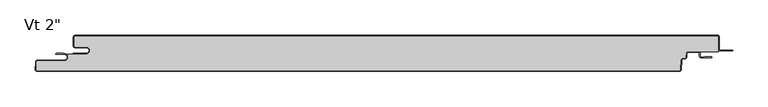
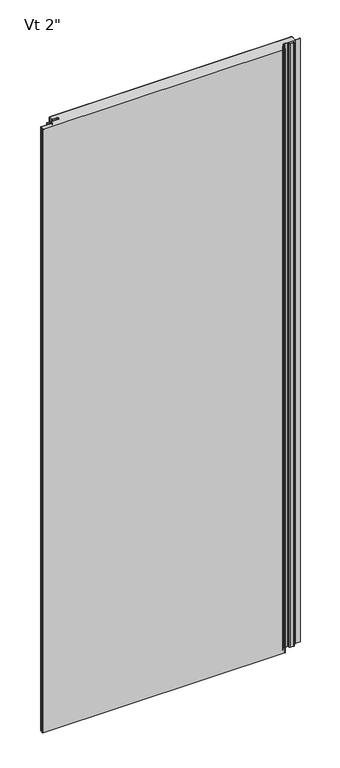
"""IFC4 building model written with IfcOpenShell, lengths in millimetres: plate geometry."""

from ifc_helpers import new_model, si_unit, point, frame, frame_2d, origin, origin_with_axes, place, context, project, spatial, polyline, circle_curve, ellipse_curve, trimmed, segment, composite_curve, outline, extrude, source, transform, mapped, element, save
from ifc_brep_helpers import plane_surface, cylinder_surface, revolved_surface, extruded_surface, advanced_brep


def plate_f37d1252(model_context):
    return source(origin(), model_context, "Body", "SolidModel", [
        extrude(outline(composite_curve([segment(trimmed(circle_curve(frame_2d((412.1683457, -25.4)), 2.5875), [point((412.1683457, -22.8125))], [point((409.5843918, -25.2645807))], True, "CARTESIAN"), True, "CONTINUOUS"), segment(polyline([(409.5843918, -25.2645807), (409.2823155, -31.028539)]), True, "CONTINUOUS"), segment(trimmed(circle_curve(frame_2d((407.9029585, -30.95625)), 1.38125), [point((409.2823155, -31.028539))], [point((407.9029585, -32.3375))], False, "CARTESIAN"), True, "CONTINUOUS"), segment(polyline([(407.9029585, -32.3375), (404.8591521, -32.3375)]), True, "CONTINUOUS"), segment(trimmed(circle_curve(frame_2d((404.8591521, -34.925)), 2.5875), [point((404.8591521, -32.3375))], [point((402.2751982, -34.7895807))], True, "CARTESIAN"), True, "CONTINUOUS"), segment(polyline([(402.2751982, -34.7895807), (401.5571352, -48.491039)]), True, "CONTINUOUS"), segment(trimmed(circle_curve(frame_2d((400.1777781, -48.41875)), 1.38125), [point((401.5571352, -48.491039))], [point((400.1777781, -49.8))], False, "CARTESIAN"), True, "CONTINUOUS"), segment(polyline([(400.1777781, -49.8), (-507.8656861, -49.8)]), True, "CONTINUOUS"), segment(trimmed(circle_curve(frame_2d((-507.8656861, -48.41875)), 1.38125), [point((-507.8656861, -49.8))], [point((-509.2450431, -48.346461))], False, "CARTESIAN"), True, "CONTINUOUS"), segment(polyline([(-509.2450431, -48.346461), (-508.6626617, -37.233961)]), True, "CONTINUOUS"), segment(trimmed(circle_curve(frame_2d((-507.2833046, -37.30625)), 1.38125), [point((-508.6626617, -37.233961))], [point((-507.2833046, -35.925))], False, "CARTESIAN"), True, "CONTINUOUS"), segment(polyline([(-507.2833046, -35.925), (-469.1, -35.925)]), True, "CONTINUOUS"), segment(trimmed(circle_curve(frame_2d((-469.1, -30.95625)), 4.96875), [point((-469.1, -35.925))], [point((-464.13125, -30.95625))], True, "CARTESIAN"), True, "CONTINUOUS"), segment(polyline([(-464.13125, -30.95625), (-464.13125, -26.4), (-438.14375, -26.4)]), True, "CONTINUOUS"), segment(trimmed(circle_curve(frame_2d((-438.14375, -21.43125)), 4.96875), [point((-438.14375, -26.4))], [point((-438.14375, -16.4625))], True, "CARTESIAN"), True, "CONTINUOUS"), segment(polyline([(-438.14375, -16.4625), (-454.01875, -16.4625)]), True, "CONTINUOUS"), segment(trimmed(circle_curve(frame_2d((-454.01875, -15.08125)), 1.38125), [point((-454.01875, -16.4625))], [point((-455.4, -15.08125))], False, "CARTESIAN"), True, "CONTINUOUS"), segment(polyline([(-455.4, -15.08125), (-455.4, -2.38125)]), True, "CONTINUOUS"), segment(trimmed(circle_curve(frame_2d((-454.01875, -2.38125)), 1.38125), [point((-455.4, -2.38125))], [point((-454.01875, -1.0))], False, "CARTESIAN"), True, "CONTINUOUS"), segment(polyline([(-454.01875, -1.0), (454.03125, -1.0)]), True, "CONTINUOUS"), segment(trimmed(circle_curve(frame_2d((454.03125, -2.38125)), 1.38125), [point((454.03125, -1.0))], [point((455.4125, -2.38125))], False, "CARTESIAN"), True, "CONTINUOUS"), segment(polyline([(455.4125, -2.38125), (455.4125, -22.8125), (412.1683457, -22.8125)]), True, "CONTINUOUS")], self_intersect=False)), origin_with_axes(), (0.0, 0.0, 1.0), 2400.0),
        extrude(outline(composite_curve([segment(polyline([(-456.4, -25.4), (-438.14375, -25.4)]), True, "CONTINUOUS"), segment(trimmed(circle_curve(frame_2d((-438.14375, -21.43125)), 3.96875), [point((-438.14375, -25.4))], [point((-438.14375, -17.4625))], True, "CARTESIAN"), True, "CONTINUOUS"), segment(polyline([(-438.14375, -17.4625), (-454.01875, -17.4625)]), True, "CONTINUOUS"), segment(trimmed(circle_curve(frame_2d((-454.01875, -15.08125)), 2.38125), [point((-454.01875, -17.4625))], [point((-456.4, -15.08125))], False, "CARTESIAN"), True, "CONTINUOUS"), segment(polyline([(-456.4, -15.08125), (-456.4, -2.38125)]), True, "CONTINUOUS"), segment(trimmed(circle_curve(frame_2d((-454.01875, -2.38125)), 2.38125), [point((-456.4, -2.38125))], [point((-454.01875, 0.0))], False, "CARTESIAN"), True, "CONTINUOUS"), segment(polyline([(-454.01875, 0.0), (454.03125, 0.0)]), True, "CONTINUOUS"), segment(trimmed(circle_curve(frame_2d((454.03125, -2.38125)), 2.38125), [point((454.03125, 0.0))], [point((456.4125, -2.38125))], False, "CARTESIAN"), True, "CONTINUOUS"), segment(polyline([(456.4125, -2.38125), (456.4125, -19.446875)]), True, "CONTINUOUS"), segment(trimmed(circle_curve(frame_2d((458.0, -19.446875)), 1.5875), [point((456.4125, -19.446875))], [point((458.0, -21.034375))], True, "CARTESIAN"), True, "CONTINUOUS"), segment(polyline([(458.0, -21.034375), (475.4625, -21.034375), (475.4625, -22.034375), (458.0, -22.034375)]), True, "CONTINUOUS"), segment(trimmed(circle_curve(frame_2d((458.0, -19.446875)), 2.5875), [point((458.0, -22.034375))], [point((455.4125, -19.446875))], False, "CARTESIAN"), True, "CONTINUOUS"), segment(polyline([(455.4125, -19.446875), (455.4125, -2.38125)]), True, "CONTINUOUS"), segment(trimmed(circle_curve(frame_2d((454.03125, -2.38125)), 1.38125), [point((455.4125, -2.38125))], [point((454.03125, -1.0))], True, "CARTESIAN"), True, "CONTINUOUS"), segment(polyline([(454.03125, -1.0), (-454.01875, -1.0)]), True, "CONTINUOUS"), segment(trimmed(circle_curve(frame_2d((-454.01875, -2.38125)), 1.38125), [point((-454.01875, -1.0))], [point((-455.4, -2.38125))], True, "CARTESIAN"), True, "CONTINUOUS"), segment(polyline([(-455.4, -2.38125), (-455.4, -15.08125)]), True, "CONTINUOUS"), segment(trimmed(circle_curve(frame_2d((-454.01875, -15.08125)), 1.38125), [point((-455.4, -15.08125))], [point((-454.01875, -16.4625))], True, "CARTESIAN"), True, "CONTINUOUS"), segment(polyline([(-454.01875, -16.4625), (-438.14375, -16.4625)]), True, "CONTINUOUS"), segment(trimmed(circle_curve(frame_2d((-438.14375, -21.43125)), 4.96875), [point((-438.14375, -16.4625))], [point((-438.14375, -26.4))], False, "CARTESIAN"), True, "CONTINUOUS"), segment(polyline([(-438.14375, -26.4), (-456.4, -26.4), (-456.4, -25.4)]), True, "CONTINUOUS")], self_intersect=False)), origin_with_axes(), (0.0, 0.0, 1.0), 2400.0),
        advanced_brep(
        [(-480.4252049, -25.4, 2400.0), (-480.4252049, -26.9875, 2400.0), (-469.1142674, -26.9875, 2400.0), (-469.1142674, -34.925, 2400.0), (-507.2975721, -34.925, 2400.0), (-509.6755586, -37.181625, 2400.0), (-510.2579401, -48.294125, 2400.0), (-507.8799535, -50.8, 2400.0), (400.1635107, -50.8, 2400.0), (402.5414973, -48.543375, 2400.0), (403.2595603, -34.8419167, 2400.0), (404.8448847, -33.3375, 2400.0), (407.8886911, -33.3375, 2400.0), (410.2666776, -31.080875, 2400.0), (410.5687539, -25.3169167, 2400.0), (412.1540783, -23.8125, 2400.0), (427.0294826, -23.8125, 2400.0), (428.6169826, -25.4, 2400.0), (428.6169826, -29.5671875, 2400.0), (430.9982326, -31.9484375, 2400.0), (445.4898532, -31.9484375, 2400.0), (445.4898532, -30.1546875, 2400.0), (435.7607326, -30.1546875, 2400.0), (435.7607326, -30.9484375, 2400.0), (430.9982326, -30.9484375, 2400.0), (429.6169826, -29.5671875, 2400.0), (429.6169826, -25.4, 2400.0), (427.0294826, -22.8125, 2400.0), (412.1540783, -22.8125, 2400.0), (409.5701244, -25.2645807, 2400.0), (409.2680481, -31.028539, 2400.0), (407.8886911, -32.3375, 2400.0), (404.8448847, -32.3375, 2400.0), (402.2609307, -34.7895807, 2400.0), (401.5428677, -48.491039, 2400.0), (400.1635107, -49.8, 2400.0), (-507.8799535, -49.8, 2400.0), (-509.2593106, -48.346461, 2400.0), (-508.6769291, -37.233961, 2400.0), (-507.2975721, -35.925, 2400.0), (-469.1142674, -35.925, 2400.0), (-469.1142674, -25.9875, 2400.0), (-470.7017674, -26.19375, 2400.0), (-470.7017674, -25.4, 2400.0), (-480.4252049, -25.4, 0.0), (-470.7017674, -25.4, 0.0), (-470.7017674, -26.19375, 0.0), (-469.1142674, -25.9875, 0.0), (-469.1142674, -35.925, 0.0), (-507.2975721, -35.925, 0.0), (-508.6769291, -37.233961, 0.0), (-509.2593106, -48.346461, 0.0), (-507.8799535, -49.8, 0.0), (400.1635107, -49.8, 0.0), (401.5428677, -48.491039, 0.0), (402.2609307, -34.7895807, 0.0), (404.8448847, -32.3375, 0.0), (407.8886911, -32.3375, 0.0), (409.2680481, -31.028539, 0.0), (409.5701244, -25.2645807, 0.0), (412.1540783, -22.8125, 0.0), (427.0294826, -22.8125, 0.0), (429.6169826, -25.4, 0.0), (429.6169826, -29.5671875, 0.0), (430.9982326, -30.9484375, 0.0), (435.7607326, -30.9484375, 0.0), (435.7607326, -30.1546875, 0.0), (445.4898532, -30.1546875, 0.0), (445.4898532, -31.9484375, 0.0), (430.9982326, -31.9484375, 0.0), (428.6169826, -29.5671875, 0.0), (428.6169826, -25.4, 0.0), (427.0294826, -23.8125, 0.0), (412.1540783, -23.8125, 0.0), (410.5687539, -25.3169167, 0.0), (410.2666776, -31.080875, 0.0), (407.8886911, -33.3375, 0.0), (404.8448847, -33.3375, 0.0), (403.2595603, -34.8419167, 0.0), (402.5414973, -48.543375, 0.0), (400.1635107, -50.8, 0.0), (-507.8799535, -50.8, 0.0), (-510.2579401, -48.294125, 0.0), (-509.6755586, -37.181625, 0.0), (-507.2975721, -34.925, 0.0), (-469.1142674, -34.925, 0.0), (-469.1142674, -26.9875, 0.0), (-480.4252049, -26.9875, 0.0)],
        [
            (0, 1, circle_curve(frame((-480.4252049, -26.19375, 2400.0), z_axis=(0.0, 0.0, 1.0), x_axis=(1.0, 0.0, 0.0)), 0.79375)),
            (1, 2),
            (2, 3, circle_curve(frame((-469.1142674, -30.95625, 2400.0), z_axis=(0.0, 0.0, -1.0), x_axis=(1.0, 0.0, 0.0)), 3.96875)),
            (3, 4),
            (4, 5, circle_curve(frame((-507.2975721, -37.30625, 2400.0), z_axis=(0.0, 0.0, 1.0), x_axis=(1.0, 0.0, 0.0)), 2.38125)),
            (5, 6),
            (6, 7, circle_curve(frame((-507.8799535, -48.41875, 2400.0), z_axis=(0.0, 0.0, 1.0), x_axis=(1.0, 0.0, 0.0)), 2.38125)),
            (7, 8),
            (8, 9, circle_curve(frame((400.1635107, -48.41875, 2400.0), z_axis=(0.0, 0.0, 1.0), x_axis=(1.0, 0.0, 0.0)), 2.38125)),
            (9, 10),
            (10, 11, circle_curve(frame((404.8448847, -34.925, 2400.0), z_axis=(0.0, 0.0, -1.0), x_axis=(1.0, 0.0, 0.0)), 1.5875)),
            (11, 12),
            (12, 13, circle_curve(frame((407.8886911, -30.95625, 2400.0), z_axis=(0.0, 0.0, 1.0), x_axis=(1.0, 0.0, 0.0)), 2.38125)),
            (13, 14),
            (14, 15, circle_curve(frame((412.1540783, -25.4, 2400.0), z_axis=(0.0, 0.0, -1.0), x_axis=(1.0, 0.0, 0.0)), 1.5875)),
            (15, 16),
            (16, 17, circle_curve(frame((427.0294826, -25.4, 2400.0), z_axis=(0.0, 0.0, -1.0), x_axis=(1.0, 0.0, 0.0)), 1.5875)),
            (17, 18),
            (18, 19, circle_curve(frame((430.9982326, -29.5671875, 2400.0), z_axis=(0.0, 0.0, 1.0), x_axis=(1.0, 0.0, 0.0)), 2.38125)),
            (19, 20),
            (20, 21, ellipse_curve(frame((445.4898532, -31.0515625, 2400.0), z_axis=(0.0, 0.0, 1.0), x_axis=(0.0, 1.0, 0.0)), 0.896875, 0.7852275)),
            (21, 22),
            (22, 23),
            (23, 24),
            (24, 25, circle_curve(frame((430.9982326, -29.5671875, 2400.0), z_axis=(0.0, 0.0, -1.0), x_axis=(1.0, 0.0, 0.0)), 1.38125)),
            (25, 26),
            (26, 27, circle_curve(frame((427.0294826, -25.4, 2400.0), z_axis=(0.0, 0.0, 1.0), x_axis=(1.0, 0.0, 0.0)), 2.5875)),
            (27, 28),
            (28, 29, circle_curve(frame((412.1540783, -25.4, 2400.0), z_axis=(0.0, 0.0, 1.0), x_axis=(1.0, 0.0, 0.0)), 2.5875)),
            (29, 30),
            (30, 31, circle_curve(frame((407.8886911, -30.95625, 2400.0), z_axis=(0.0, 0.0, -1.0), x_axis=(1.0, 0.0, 0.0)), 1.38125)),
            (31, 32),
            (32, 33, circle_curve(frame((404.8448847, -34.925, 2400.0), z_axis=(0.0, 0.0, 1.0), x_axis=(1.0, 0.0, 0.0)), 2.5875)),
            (33, 34),
            (34, 35, circle_curve(frame((400.1635107, -48.41875, 2400.0), z_axis=(0.0, 0.0, -1.0), x_axis=(1.0, 0.0, 0.0)), 1.38125)),
            (35, 36),
            (36, 37, circle_curve(frame((-507.8799535, -48.41875, 2400.0), z_axis=(0.0, 0.0, -1.0), x_axis=(1.0, 0.0, 0.0)), 1.38125)),
            (37, 38),
            (38, 39, circle_curve(frame((-507.2975721, -37.30625, 2400.0), z_axis=(0.0, 0.0, -1.0), x_axis=(1.0, 0.0, 0.0)), 1.38125)),
            (39, 40),
            (40, 41, circle_curve(frame((-469.1142674, -30.95625, 2400.0), z_axis=(0.0, 0.0, 1.0), x_axis=(1.0, 0.0, 0.0)), 4.96875)),
            (41, 42),
            (42, 43),
            (43, 0),
            (44, 45),
            (45, 46),
            (46, 47),
            (47, 48, circle_curve(frame((-469.1142674, -30.95625, 0.0), z_axis=(0.0, 0.0, -1.0), x_axis=(1.0, 0.0, 0.0)), 4.96875)),
            (48, 49),
            (49, 50, circle_curve(frame((-507.2975721, -37.30625, 0.0), z_axis=(0.0, 0.0, 1.0), x_axis=(1.0, 0.0, 0.0)), 1.38125)),
            (50, 51),
            (51, 52, circle_curve(frame((-507.8799535, -48.41875, 0.0), z_axis=(0.0, 0.0, 1.0), x_axis=(1.0, 0.0, 0.0)), 1.38125)),
            (52, 53),
            (53, 54, circle_curve(frame((400.1635107, -48.41875, 0.0), z_axis=(0.0, 0.0, 1.0), x_axis=(1.0, 0.0, 0.0)), 1.38125)),
            (54, 55),
            (55, 56, circle_curve(frame((404.8448847, -34.925, 0.0), z_axis=(0.0, 0.0, -1.0), x_axis=(1.0, 0.0, 0.0)), 2.5875)),
            (56, 57),
            (57, 58, circle_curve(frame((407.8886911, -30.95625, 0.0), z_axis=(0.0, 0.0, 1.0), x_axis=(1.0, 0.0, 0.0)), 1.38125)),
            (58, 59),
            (59, 60, circle_curve(frame((412.1540783, -25.4, 0.0), z_axis=(0.0, 0.0, -1.0), x_axis=(1.0, 0.0, 0.0)), 2.5875)),
            (60, 61),
            (61, 62, circle_curve(frame((427.0294826, -25.4, 0.0), z_axis=(0.0, 0.0, -1.0), x_axis=(1.0, 0.0, 0.0)), 2.5875)),
            (62, 63),
            (63, 64, circle_curve(frame((430.9982326, -29.5671875, 0.0), z_axis=(0.0, 0.0, 1.0), x_axis=(1.0, 0.0, 0.0)), 1.38125)),
            (64, 65),
            (65, 66),
            (66, 67),
            (67, 68, ellipse_curve(frame((445.4898532, -31.0515625, 0.0), z_axis=(0.0, 0.0, -1.0), x_axis=(0.0, 1.0, 0.0)), 0.896875, 0.7852275)),
            (68, 69),
            (69, 70, circle_curve(frame((430.9982326, -29.5671875, 0.0), z_axis=(0.0, 0.0, -1.0), x_axis=(1.0, 0.0, 0.0)), 2.38125)),
            (70, 71),
            (71, 72, circle_curve(frame((427.0294826, -25.4, 0.0), z_axis=(0.0, 0.0, 1.0), x_axis=(1.0, 0.0, 0.0)), 1.5875)),
            (72, 73),
            (73, 74, circle_curve(frame((412.1540783, -25.4, 0.0), z_axis=(0.0, 0.0, 1.0), x_axis=(1.0, 0.0, 0.0)), 1.5875)),
            (74, 75),
            (75, 76, circle_curve(frame((407.8886911, -30.95625, 0.0), z_axis=(0.0, 0.0, -1.0), x_axis=(1.0, 0.0, 0.0)), 2.38125)),
            (76, 77),
            (77, 78, circle_curve(frame((404.8448847, -34.925, 0.0), z_axis=(0.0, 0.0, 1.0), x_axis=(1.0, 0.0, 0.0)), 1.5875)),
            (78, 79),
            (79, 80, circle_curve(frame((400.1635107, -48.41875, 0.0), z_axis=(0.0, 0.0, -1.0), x_axis=(1.0, 0.0, 0.0)), 2.38125)),
            (80, 81),
            (81, 82, circle_curve(frame((-507.8799535, -48.41875, 0.0), z_axis=(0.0, 0.0, -1.0), x_axis=(1.0, 0.0, 0.0)), 2.38125)),
            (82, 83),
            (83, 84, circle_curve(frame((-507.2975721, -37.30625, 0.0), z_axis=(0.0, 0.0, -1.0), x_axis=(1.0, 0.0, 0.0)), 2.38125)),
            (84, 85),
            (85, 86, circle_curve(frame((-469.1142674, -30.95625, 0.0), z_axis=(0.0, 0.0, 1.0), x_axis=(1.0, 0.0, 0.0)), 3.96875)),
            (86, 87),
            (87, 44, circle_curve(frame((-480.4252049, -26.19375, 0.0), z_axis=(0.0, 0.0, -1.0), x_axis=(1.0, 0.0, 0.0)), 0.79375)),
            (20, 68),
            (67, 21),
            (66, 22),
            (65, 23),
            (41, 47),
            (46, 42),
            (45, 43),
            (40, 48),
            (39, 49),
            (38, 50),
            (37, 51),
            (33, 55),
            (54, 34),
            (32, 56),
            (31, 57),
            (30, 58),
            (29, 59),
            (28, 60),
            (64, 24),
            (63, 25),
            (62, 26),
            (61, 27),
            (18, 70),
            (69, 19),
            (17, 71),
            (16, 72),
            (15, 73),
            (14, 74),
            (13, 75),
            (12, 76),
            (11, 77),
            (10, 78),
            (9, 79),
            (5, 83),
            (82, 6),
            (4, 84),
            (3, 85),
            (2, 86),
            (1, 87),
            (0, 44),
            (36, 52),
            (35, 53),
            (8, 80),
            (7, 81),
        ],
        [
            plane_surface(frame((0.00625, -50.8, 2400.0), z_axis=(0.0, 0.0, 1.0), x_axis=(0.0, -1.0, 0.0))),
            plane_surface(frame((0.00625, -50.8, 0.0), z_axis=(0.0, 0.0, -1.0), x_axis=(0.0, -1.0, 0.0))),
            extruded_surface(trimmed(ellipse_curve(frame((445.4898532, -31.0515625, 2400.0), z_axis=(0.0, 0.0, -1.0), x_axis=(0.0, 1.0, 0.0)), 0.896875, 0.7852275), [point((445.4898532, -30.1546875, 2400.0))], [point((445.4898532, -31.9484375, 2400.0))], True, "CARTESIAN"), (0.0, 0.0, -2400.0), 2400.0),
            plane_surface(frame((435.7607326, -30.1546875, 2400.0), z_axis=(0.0, 1.0, 0.0), x_axis=(0.0, 0.0, -1.0))),
            plane_surface(frame((435.7607326, -30.9484375, 2400.0), z_axis=(-1.0, 0.0, 0.0), x_axis=(0.0, 0.0, -1.0))),
            plane_surface(frame((-470.7017674, -26.19375, 2400.0), z_axis=(-0.12883844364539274, 0.9916655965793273, 0.0), x_axis=(0.0, 0.0, -1.0))),
            plane_surface(frame((-470.7017674, -25.4, 2400.0), z_axis=(1.0, 0.0, 0.0), x_axis=(0.0, 0.0, -1.0))),
            cylinder_surface(frame((-469.1142674, -30.95625, 2400.0), z_axis=(0.0, 0.0, 1.0), x_axis=(1.0, 0.0, 0.0)), 4.96875),
            plane_surface(frame((-469.1142674, -35.925, 2400.0), z_axis=(0.0, -1.0, 0.0), x_axis=(0.0, 0.0, -1.0))),
            revolved_surface(polyline([(-505.9163221, -37.30625, 0.0), (-505.9163221, -37.30625, 2400.0)]), (-507.2975721, -37.30625, 2400.0), (0.0, 0.0, -1.0)),
            plane_surface(frame((-508.6769291, -37.233961, 2400.0), z_axis=(0.9986295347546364, -0.05233595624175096, 0.0), x_axis=(0.0, 0.0, -1.0))),
            plane_surface(frame((401.5428677, -48.491039, 2400.0), z_axis=(-0.9986295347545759, 0.05233595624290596, 0.0), x_axis=(0.0, 0.0, -1.0))),
            cylinder_surface(frame((404.8448847, -34.925, 2400.0), z_axis=(0.0, 0.0, 1.0), x_axis=(1.0, 0.0, 0.0)), 2.5875),
            plane_surface(frame((404.8448847, -32.3375, 2400.0), z_axis=(0.0, 1.0, 0.0), x_axis=(0.0, 0.0, -1.0))),
            revolved_surface(polyline([(409.26994110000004, -30.95625, 0.0), (409.26994110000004, -30.95625, 2400.0)]), (407.8886911, -30.95625, 2400.0), (0.0, 0.0, -1.0)),
            plane_surface(frame((409.2680481, -31.028539, 2400.0), z_axis=(-0.998629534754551, 0.05233595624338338, 0.0), x_axis=(0.0, 0.0, -1.0))),
            cylinder_surface(frame((412.1540783, -25.4, 2400.0), z_axis=(0.0, 0.0, 1.0), x_axis=(1.0, 0.0, 0.0)), 2.5875),
            plane_surface(frame((430.9982326, -30.9484375, 2400.0), z_axis=(0.0, 1.0, 0.0), x_axis=(0.0, 0.0, -1.0))),
            revolved_surface(polyline([(432.3794826, -29.5671875, 0.0), (432.3794826, -29.5671875, 2400.0)]), (430.9982326, -29.5671875, 2400.0), (0.0, 0.0, -1.0)),
            plane_surface(frame((429.6169826, -25.4, 2400.0), z_axis=(1.0, 0.0, 0.0), x_axis=(0.0, 0.0, -1.0))),
            cylinder_surface(frame((427.0294826, -25.4, 2400.0), z_axis=(0.0, 0.0, 1.0), x_axis=(1.0, 0.0, 0.0)), 2.5875),
            plane_surface(frame((412.1540783, -22.8125, 2400.0), z_axis=(0.0, 1.0, 0.0), x_axis=(0.0, 0.0, -1.0))),
            cylinder_surface(frame((430.9982326, -29.5671875, 2400.0), z_axis=(0.0, 0.0, 1.0), x_axis=(1.0, 0.0, 0.0)), 2.38125),
            plane_surface(frame((428.6169826, -29.5671875, 2400.0), z_axis=(-1.0, 0.0, 0.0), x_axis=(0.0, 0.0, -1.0))),
            revolved_surface(polyline([(428.6169826, -25.4, 0.0), (428.6169826, -25.4, 2400.0)]), (427.0294826, -25.4, 2400.0), (0.0, 0.0, -1.0)),
            plane_surface(frame((427.0294826, -23.8125, 2400.0), z_axis=(0.0, -1.0, 0.0), x_axis=(0.0, 0.0, -1.0))),
            revolved_surface(polyline([(413.74157829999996, -25.4, 0.0), (413.74157829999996, -25.4, 2400.0)]), (412.1540783, -25.4, 2400.0), (0.0, 0.0, -1.0)),
            plane_surface(frame((410.5687539, -25.3169167, 2400.0), z_axis=(0.9986295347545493, -0.05233595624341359, 0.0), x_axis=(0.0, 0.0, -1.0))),
            cylinder_surface(frame((407.8886911, -30.95625, 2400.0), z_axis=(0.0, 0.0, 1.0), x_axis=(1.0, 0.0, 0.0)), 2.38125),
            plane_surface(frame((407.8886911, -33.3375, 2400.0), z_axis=(0.0, -1.0, 0.0), x_axis=(0.0, 0.0, -1.0))),
            revolved_surface(polyline([(406.4323847, -34.925, 0.0), (406.4323847, -34.925, 2400.0)]), (404.8448847, -34.925, 2400.0), (0.0, 0.0, -1.0)),
            plane_surface(frame((403.2595603, -34.8419167, 2400.0), z_axis=(0.9986295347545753, -0.052335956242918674, 0.0), x_axis=(0.0, 0.0, -1.0))),
            plane_surface(frame((-510.2579401, -48.294125, 2400.0), z_axis=(-0.9986295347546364, 0.05233595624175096, 0.0), x_axis=(0.0, 0.0, -1.0))),
            cylinder_surface(frame((-507.2975721, -37.30625, 2400.0), z_axis=(0.0, 0.0, 1.0), x_axis=(1.0, 0.0, 0.0)), 2.38125),
            plane_surface(frame((-507.2975721, -34.925, 2400.0), z_axis=(0.0, 1.0, 0.0), x_axis=(0.0, 0.0, -1.0))),
            revolved_surface(polyline([(-465.1455174, -30.95625, 0.0), (-465.1455174, -30.95625, 2400.0)]), (-469.1142674, -30.95625, 2400.0), (0.0, 0.0, -1.0)),
            plane_surface(frame((-469.1142674, -26.9875, 2400.0), z_axis=(0.0, -1.0, 0.0), x_axis=(0.0, 0.0, -1.0))),
            cylinder_surface(frame((-480.4252049, -26.19375, 2400.0), z_axis=(0.0, 0.0, 1.0), x_axis=(1.0, 0.0, 0.0)), 0.79375),
            plane_surface(frame((-480.4252049, -25.4, 2400.0), z_axis=(0.0, 1.0, 0.0), x_axis=(0.0, 0.0, -1.0))),
            revolved_surface(polyline([(-506.4987035, -48.41875, 0.0), (-506.4987035, -48.41875, 2400.0)]), (-507.8799535, -48.41875, 2400.0), (0.0, 0.0, -1.0)),
            plane_surface(frame((-507.8799535, -49.8, 2400.0), z_axis=(0.0, 1.0, 0.0), x_axis=(0.0, 0.0, -1.0))),
            revolved_surface(polyline([(401.54476070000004, -48.41875, 0.0), (401.54476070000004, -48.41875, 2400.0)]), (400.1635107, -48.41875, 2400.0), (0.0, 0.0, -1.0)),
            plane_surface(frame((445.4898532, -31.9484375, 2400.0), z_axis=(0.0, -1.0, 0.0), x_axis=(0.0, 0.0, -1.0))),
            cylinder_surface(frame((400.1635107, -48.41875, 2400.0), z_axis=(0.0, 0.0, 1.0), x_axis=(1.0, 0.0, 0.0)), 2.38125),
            plane_surface(frame((400.1635107, -50.8, 2400.0), z_axis=(0.0, -1.0, 0.0), x_axis=(0.0, 0.0, -1.0))),
            cylinder_surface(frame((-507.8799535, -48.41875, 2400.0), z_axis=(0.0, 0.0, 1.0), x_axis=(1.0, 0.0, 0.0)), 2.38125),
        ],
        [
            (0, [[1, 2, 3, 4, 5, 6, 7, 8, 9, 10, 11, 12, 13, 14, 15, 16, 17, 18, 19, 20, 21, 22, 23, 24, 25, 26, 27, 28, 29, 30, 31, 32, 33, 34, 35, 36, 37, 38, 39, 40, 41, 42, 43, 44]]),
            (1, [[45, 46, 47, 48, 49, 50, 51, 52, 53, 54, 55, 56, 57, 58, 59, 60, 61, 62, 63, 64, 65, 66, 67, 68, 69, 70, 71, 72, 73, 74, 75, 76, 77, 78, 79, 80, 81, 82, 83, 84, 85, 86, 87, 88]]),
            (2, [[89, -68, 90, -21]]),
            (3, [[-90, -67, 91, -22]]),
            (4, [[-91, -66, 92, -23]]),
            (5, [[93, -47, 94, -42]]),
            (6, [[-94, -46, 95, -43]]),
            (7, [[96, -48, -93, -41]]),
            (8, [[97, -49, -96, -40]]),
            (9, [[98, -50, -97, -39]]),
            (10, [[99, -51, -98, -38]]),
            (11, [[100, -55, 101, -34]]),
            (12, [[102, -56, -100, -33]]),
            (13, [[103, -57, -102, -32]]),
            (14, [[104, -58, -103, -31]]),
            (15, [[105, -59, -104, -30]]),
            (16, [[106, -60, -105, -29]]),
            (17, [[-92, -65, 107, -24]]),
            (18, [[-107, -64, 108, -25]]),
            (19, [[-108, -63, 109, -26]]),
            (20, [[-109, -62, 110, -27]]),
            (21, [[-110, -61, -106, -28]]),
            (22, [[111, -70, 112, -19]]),
            (23, [[113, -71, -111, -18]]),
            (24, [[114, -72, -113, -17]]),
            (25, [[115, -73, -114, -16]]),
            (26, [[116, -74, -115, -15]]),
            (27, [[117, -75, -116, -14]]),
            (28, [[118, -76, -117, -13]]),
            (29, [[119, -77, -118, -12]]),
            (30, [[120, -78, -119, -11]]),
            (31, [[121, -79, -120, -10]]),
            (32, [[122, -83, 123, -6]]),
            (33, [[124, -84, -122, -5]]),
            (34, [[125, -85, -124, -4]]),
            (35, [[126, -86, -125, -3]]),
            (36, [[127, -87, -126, -2]]),
            (37, [[128, -88, -127, -1]]),
            (38, [[-95, -45, -128, -44]]),
            (39, [[129, -52, -99, -37]]),
            (40, [[130, -53, -129, -36]]),
            (41, [[-101, -54, -130, -35]]),
            (42, [[-112, -69, -89, -20]]),
            (43, [[131, -80, -121, -9]]),
            (44, [[132, -81, -131, -8]]),
            (45, [[-123, -82, -132, -7]]),
        ],
    ),
    ])


if __name__ == "__main__":
    model = new_model("IFC4")
    model_context = context("Model", 3, world=origin())
    ifc_project = project(units=[si_unit("LENGTHUNIT", "METRE", prefix="MILLI")], contexts=[model_context])
    site = spatial("IfcSite", under=ifc_project)
    building = spatial("IfcBuilding", under=site)
    placement = place(None, origin())
    plate_shape = plate_f37d1252(model_context)
    element("IfcPlate", 1, ObjectType="KIP-36-DWTR-R19-CP-Vt-F : Vt 2\"", at=placement, inside=building, context=model_context, shape_type="MappedRepresentation", body=[
        mapped(plate_shape, transform((0.0, 0.0, 0.0), x_axis=(1.0, 0.0, 0.0), y_axis=(0.0, 1.0, 0.0), z_axis=(0.0, 0.0, 1.0))),
    ])
    save(model, "model.ifc")
